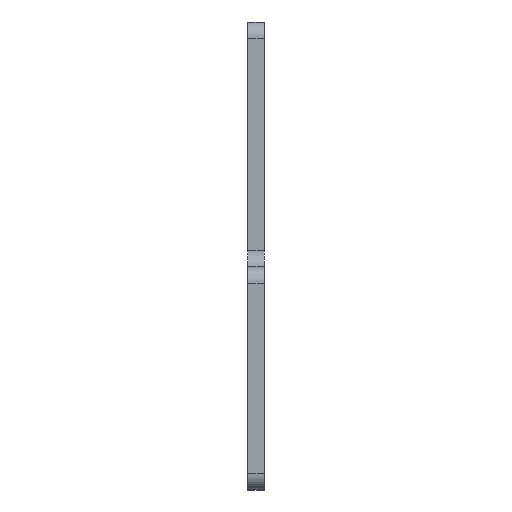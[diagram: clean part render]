
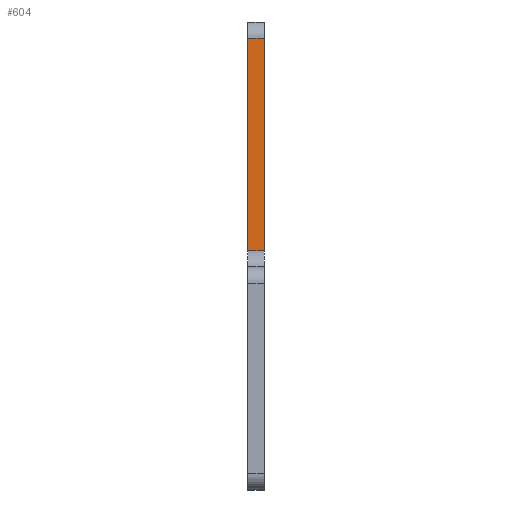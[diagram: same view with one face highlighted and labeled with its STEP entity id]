
A CAD part, left-side view. The second image highlights one B-rep face of the part: STEP entity #604.
In plain terms, the highlighted planar face has unit normal (-1, 0, 0).
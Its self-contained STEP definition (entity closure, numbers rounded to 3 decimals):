
#43 = EDGE_LOOP ( 'NONE', ( #974, #426, #331, #204 ) ) ;
#103 = LINE ( 'NONE', #874, #968 ) ;
#116 = DIRECTION ( 'NONE',  ( -1., 0., 0. ) ) ;
#127 = EDGE_CURVE ( 'NONE', #965, #251, #401, .T. ) ;
#168 = CARTESIAN_POINT ( 'NONE',  ( -20.5, 3., 62.5 ) ) ;
#174 = AXIS2_PLACEMENT_3D ( 'NONE', #714, #116, #1046 ) ;
#204 = ORIENTED_EDGE ( 'NONE', *, *, #566, .F. ) ;
#211 = LINE ( 'NONE', #361, #855 ) ;
#215 = DIRECTION ( 'NONE',  ( 0., -1., 0. ) ) ;
#251 = VERTEX_POINT ( 'NONE', #320 ) ;
#308 = VECTOR ( 'NONE', #463, 1000. ) ;
#320 = CARTESIAN_POINT ( 'NONE',  ( -20.5, 3., 23.5 ) ) ;
#331 = ORIENTED_EDGE ( 'NONE', *, *, #1026, .F. ) ;
#361 = CARTESIAN_POINT ( 'NONE',  ( -20.5, 3., 65.5 ) ) ;
#401 = LINE ( 'NONE', #1040, #308 ) ;
#426 = ORIENTED_EDGE ( 'NONE', *, *, #127, .F. ) ;
#463 = DIRECTION ( 'NONE',  ( 0., 1., 0. ) ) ;
#507 = EDGE_CURVE ( 'NONE', #903, #251, #211, .T. ) ;
#566 = EDGE_CURVE ( 'NONE', #903, #1087, #103, .T. ) ;
#586 = CARTESIAN_POINT ( 'NONE',  ( -20.5, 0., 65.5 ) ) ;
#604 = ADVANCED_FACE ( 'NONE', ( #751 ), #1042, .T. ) ;
#638 = LINE ( 'NONE', #586, #897 ) ;
#714 = CARTESIAN_POINT ( 'NONE',  ( -20.5, 0., 65.5 ) ) ;
#751 = FACE_OUTER_BOUND ( 'NONE', #43, .T. ) ;
#855 = VECTOR ( 'NONE', #951, 1000. ) ;
#874 = CARTESIAN_POINT ( 'NONE',  ( -20.5, 0., 62.5 ) ) ;
#897 = VECTOR ( 'NONE', #922, 1000. ) ;
#903 = VERTEX_POINT ( 'NONE', #168 ) ;
#922 = DIRECTION ( 'NONE',  ( 0., 0., -1. ) ) ;
#951 = DIRECTION ( 'NONE',  ( 0., 0., -1. ) ) ;
#965 = VERTEX_POINT ( 'NONE', #1090 ) ;
#968 = VECTOR ( 'NONE', #215, 1000. ) ;
#974 = ORIENTED_EDGE ( 'NONE', *, *, #507, .T. ) ;
#1026 = EDGE_CURVE ( 'NONE', #1087, #965, #638, .T. ) ;
#1040 = CARTESIAN_POINT ( 'NONE',  ( -20.5, 3., 23.5 ) ) ;
#1042 = PLANE ( 'NONE',  #174 ) ;
#1046 = DIRECTION ( 'NONE',  ( 0., 0., -1. ) ) ;
#1068 = CARTESIAN_POINT ( 'NONE',  ( -20.5, 0., 62.5 ) ) ;
#1087 = VERTEX_POINT ( 'NONE', #1068 ) ;
#1090 = CARTESIAN_POINT ( 'NONE',  ( -20.5, 0., 23.5 ) ) ;
